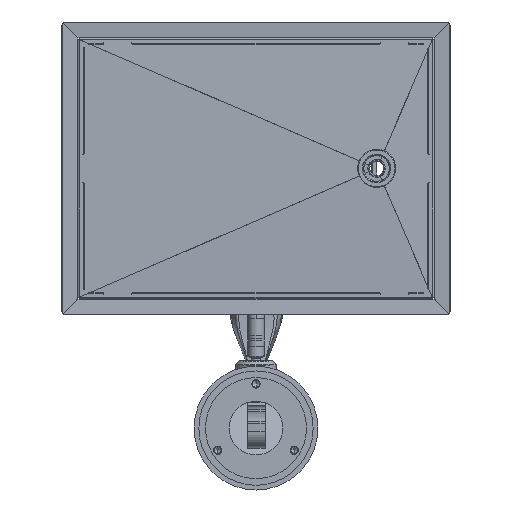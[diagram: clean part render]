
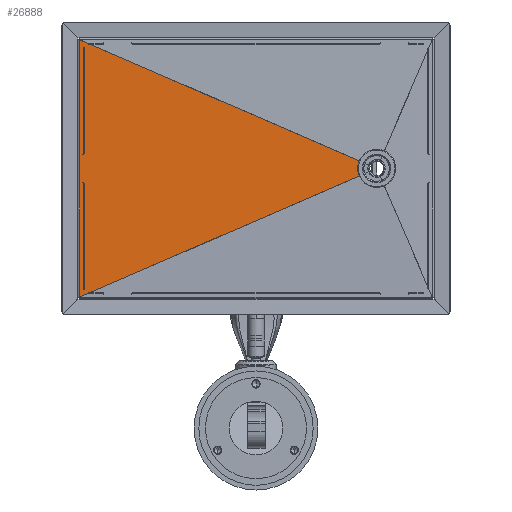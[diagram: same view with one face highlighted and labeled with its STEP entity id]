
A CAD part, front view. The second image highlights one B-rep face of the part: STEP entity #26888.
In plain terms, the highlighted planar face has unit normal (-0.011, -1, 0).
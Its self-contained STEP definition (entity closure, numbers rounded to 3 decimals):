
#231 = VERTEX_POINT ( 'NONE', #83963 ) ;
#1495 = EDGE_CURVE ( 'NONE', #71753, #80999, #41609, .T. ) ;
#3457 = VECTOR ( 'NONE', #93268, 1000. ) ;
#5690 = CARTESIAN_POINT ( 'NONE',  ( -126.663, -31.2, -92.45 ) ) ;
#9441 = VECTOR ( 'NONE', #92627, 1000. ) ;
#13133 = EDGE_CURVE ( 'NONE', #72336, #80999, #53239, .T. ) ;
#14209 = VECTOR ( 'NONE', #101101, 1000. ) ;
#16667 = VECTOR ( 'NONE', #73782, 1000. ) ;
#17390 = VERTEX_POINT ( 'NONE', #98331 ) ;
#18153 = EDGE_CURVE ( 'NONE', #78295, #39518, #90413, .T. ) ;
#20177 = EDGE_LOOP ( 'NONE', ( #94206, #37462, #41229, #35953, #66689, #30466, #88851, #91040 ) ) ;
#21754 = LINE ( 'NONE', #82895, #14209 ) ;
#22404 = DIRECTION ( 'NONE',  ( -1., 0.011, 0. ) ) ;
#23981 = EDGE_CURVE ( 'NONE', #17390, #72336, #21754, .T. ) ;
#25984 = CARTESIAN_POINT ( 'NONE',  ( 80.165, -33.43, 0.888 ) ) ;
#26888 = ADVANCED_FACE ( 'NONE', ( #75239 ), #52719, .F. ) ;
#28291 = VECTOR ( 'NONE', #22404, 1000. ) ;
#28859 = CARTESIAN_POINT ( 'NONE',  ( -126.663, -31.2, 92.45 ) ) ;
#29284 = AXIS2_PLACEMENT_3D ( 'NONE', #28859, #61101, #93001 ) ;
#30199 = VECTOR ( 'NONE', #81848, 1000. ) ;
#30466 = ORIENTED_EDGE ( 'NONE', *, *, #33579, .F. ) ;
#33579 = EDGE_CURVE ( 'NONE', #231, #71753, #63552, .T. ) ;
#35953 = ORIENTED_EDGE ( 'NONE', *, *, #13133, .T. ) ;
#37462 = ORIENTED_EDGE ( 'NONE', *, *, #65252, .F. ) ;
#39518 = VERTEX_POINT ( 'NONE', #77389 ) ;
#41229 = ORIENTED_EDGE ( 'NONE', *, *, #23981, .T. ) ;
#41609 = LINE ( 'NONE', #81762, #16667 ) ;
#47061 = CARTESIAN_POINT ( 'NONE',  ( -126.65, -31.2, -92.45 ) ) ;
#49904 = VERTEX_POINT ( 'NONE', #47061 ) ;
#50861 = CARTESIAN_POINT ( 'NONE',  ( 80.165, -33.43, -0.888 ) ) ;
#52719 = PLANE ( 'NONE',  #29284 ) ;
#53239 = LINE ( 'NONE', #68492, #9441 ) ;
#57896 = DIRECTION ( 'NONE',  ( -0.917, 0.01, -0.398 ) ) ;
#59622 =( BOUNDED_CURVE ( )  B_SPLINE_CURVE ( 3, ( #99204, #25984, #50861, #97801 ),
 .UNSPECIFIED., .F., .F. ) 
 B_SPLINE_CURVE_WITH_KNOTS ( ( 4, 4 ),
 ( 5.872, 6.694 ),
 .UNSPECIFIED. ) 
 CURVE ( )  GEOMETRIC_REPRESENTATION_ITEM ( )  RATIONAL_B_SPLINE_CURVE ( ( 1., 0.945, 0.945, 1. ) ) 
 REPRESENTATION_ITEM ( '' )  );
#61101 = DIRECTION ( 'NONE',  ( 0.011, 1., 0. ) ) ;
#63552 = LINE ( 'NONE', #92248, #3457 ) ;
#65252 = EDGE_CURVE ( 'NONE', #17390, #78295, #59622, .T. ) ;
#65298 = CARTESIAN_POINT ( 'NONE',  ( -59.197, -31.927, -63.226 ) ) ;
#66667 = CARTESIAN_POINT ( 'NONE',  ( -126.65, -31.2, 92.462 ) ) ;
#66689 = ORIENTED_EDGE ( 'NONE', *, *, #1495, .F. ) ;
#68492 = CARTESIAN_POINT ( 'NONE',  ( -126.65, -31.2, 92.45 ) ) ;
#70964 = LINE ( 'NONE', #5690, #28291 ) ;
#71753 = VERTEX_POINT ( 'NONE', #78595 ) ;
#72336 = VERTEX_POINT ( 'NONE', #66667 ) ;
#73465 = CARTESIAN_POINT ( 'NONE',  ( 80.874, -33.438, -2.516 ) ) ;
#73782 = DIRECTION ( 'NONE',  ( 1., -0.011, 0. ) ) ;
#75239 = FACE_OUTER_BOUND ( 'NONE', #20177, .T. ) ;
#77389 = CARTESIAN_POINT ( 'NONE',  ( -126.65, -31.2, -92.462 ) ) ;
#77448 = EDGE_CURVE ( 'NONE', #49904, #231, #70964, .T. ) ;
#78295 = VERTEX_POINT ( 'NONE', #73465 ) ;
#78595 = CARTESIAN_POINT ( 'NONE',  ( -126.663, -31.2, 92.45 ) ) ;
#79038 = LINE ( 'NONE', #97995, #30199 ) ;
#80999 = VERTEX_POINT ( 'NONE', #94628 ) ;
#81762 = CARTESIAN_POINT ( 'NONE',  ( -126.663, -31.2, 92.45 ) ) ;
#81848 = DIRECTION ( 'NONE',  ( 0., 0., -1. ) ) ;
#82895 = CARTESIAN_POINT ( 'NONE',  ( 86.644, -33.5, 0.015 ) ) ;
#83963 = CARTESIAN_POINT ( 'NONE',  ( -126.663, -31.2, -92.45 ) ) ;
#88851 = ORIENTED_EDGE ( 'NONE', *, *, #77448, .F. ) ;
#90413 = LINE ( 'NONE', #65298, #92984 ) ;
#91040 = ORIENTED_EDGE ( 'NONE', *, *, #99944, .T. ) ;
#92248 = CARTESIAN_POINT ( 'NONE',  ( -126.663, -31.2, 92.45 ) ) ;
#92627 = DIRECTION ( 'NONE',  ( 0., 0., -1. ) ) ;
#92984 = VECTOR ( 'NONE', #57896, 1000. ) ;
#93001 = DIRECTION ( 'NONE',  ( -1., 0.011, 0. ) ) ;
#93268 = DIRECTION ( 'NONE',  ( 0., 0., 1. ) ) ;
#94206 = ORIENTED_EDGE ( 'NONE', *, *, #18153, .F. ) ;
#94628 = CARTESIAN_POINT ( 'NONE',  ( -126.65, -31.2, 92.45 ) ) ;
#97801 = CARTESIAN_POINT ( 'NONE',  ( 80.874, -33.438, -2.516 ) ) ;
#97995 = CARTESIAN_POINT ( 'NONE',  ( -126.65, -31.2, 92.45 ) ) ;
#98331 = CARTESIAN_POINT ( 'NONE',  ( 80.874, -33.438, 2.516 ) ) ;
#99204 = CARTESIAN_POINT ( 'NONE',  ( 80.874, -33.438, 2.516 ) ) ;
#99944 = EDGE_CURVE ( 'NONE', #49904, #39518, #79038, .T. ) ;
#101101 = DIRECTION ( 'NONE',  ( -0.917, 0.01, 0.398 ) ) ;
